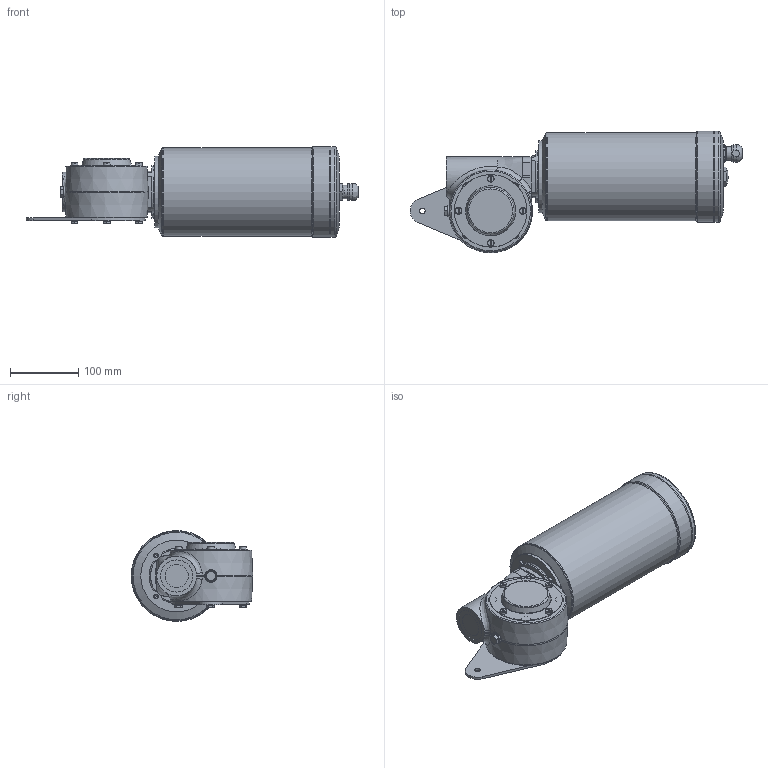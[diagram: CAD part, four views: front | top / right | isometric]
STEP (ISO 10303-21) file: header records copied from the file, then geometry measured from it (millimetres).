
FILE_DESCRIPTION( ( 'Unknown' ), '1' );
FILE_NAME( 'E:/services/configuratordownloads/customers/CLEANGEARTECH/VFN/download/99E51DBE3682A18554798556474B8/STEP/99E51DBE3682A18554798556474B8.3d.stp', 'Unknown', ( 'Unknown' ), ( 'Unknown' ), 'PSStep 10.1', 'Unknown', ' ' );
FILE_SCHEMA( ( 'AUTOMOTIVE_DESIGN { 1 0 10303 214 1 1 1 1 }' ) );
Length unit declared in the file: millimetre
Products named in the file (1): N508800
Bounding box: 485.5 x 177.72 x 133 mm (x, y, z)
Volume: 4623220.4 mm3; surface area: 244863.5 mm2
Topology: 1 solids, 28 shells, 606 faces, 1396 edges, 899 vertices
Faces by surface type: plane 250, cylinder 147, cone 124, torus 53, bspline 31, sphere 1
Full cylindrical faces by diameter (mm): 4.134 x1, 4.917 x29, 6 x12, 6.5 x4, 7 x17, 8.2 x1, 8.9 x4, 10 x4, 11 x4, 13.4 x1, 14 x1, 16.662 x1, 17 x1, 18 x1, 20 x1, 30 x1, 34 x1, 40 x1, 42.5 x2, 47 x1, 52 x1, 55 x1, 68 x2, 68.5 x1, 70 x2, 105 x1, 106 x1, 128.98 x1, 129 x2, 132.98 x2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
Entity records: 23801 total; most frequent: CARTESIAN_POINT 7095, DIRECTION 2457, ORIENTED_EDGE 2104, AXIS2_PLACEMENT_3D 1096, EDGE_CURVE 1052, EDGE_LOOP 900, VERTEX_POINT 787, FACE_OUTER_BOUND 743
